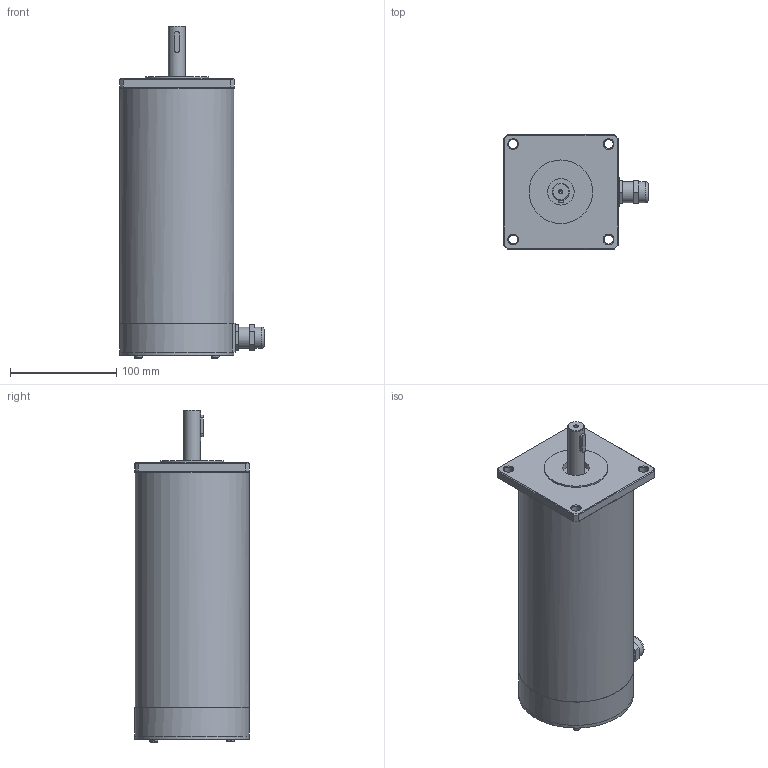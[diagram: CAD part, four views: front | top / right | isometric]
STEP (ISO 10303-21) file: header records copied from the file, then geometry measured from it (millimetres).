
FILE_DESCRIPTION((''),'2;1');
FILE_NAME('C:\Users\Reinhard\Documents\Inventor\Testschrittmotor\SM107\SM 107.4-KV.stp','2014-02-14T16:49:07',('Reinhard'),(''),'Autodesk Inventor 2012','Autodesk Inventor 2012','');
FILE_SCHEMA(('CONFIG_CONTROL_DESIGN'));
Length unit declared in the file: millimetre
Products named in the file (1): SM 107
Bounding box: 136.57 x 108.07 x 313.1 mm (x, y, z)
Volume: 327527.4 mm3; surface area: 221284.9 mm2
Topology: 2 solids, 6 shells, 170 faces, 385 edges, 238 vertices
Faces by surface type: plane 90, cylinder 37, cone 28, torus 9, bspline 6
Full cylindrical faces by diameter (mm): 3 x1, 3.571 x4, 4 x4, 8.5 x4, 12 x1, 13 x2, 15 x1, 16 x1, 18.376 x1, 20 x3, 25 x1, 60 x1, 95 x1, 96 x1, 99.472 x1, 104.734 x1, 108 x1, 108.146 x1
Entity records: 4932 total; most frequent: CARTESIAN_POINT 1203, DIRECTION 775, ORIENTED_EDGE 640, AXIS2_PLACEMENT_3D 331, EDGE_CURVE 320, EDGE_LOOP 252, VERTEX_POINT 224, FACE_OUTER_BOUND 170
